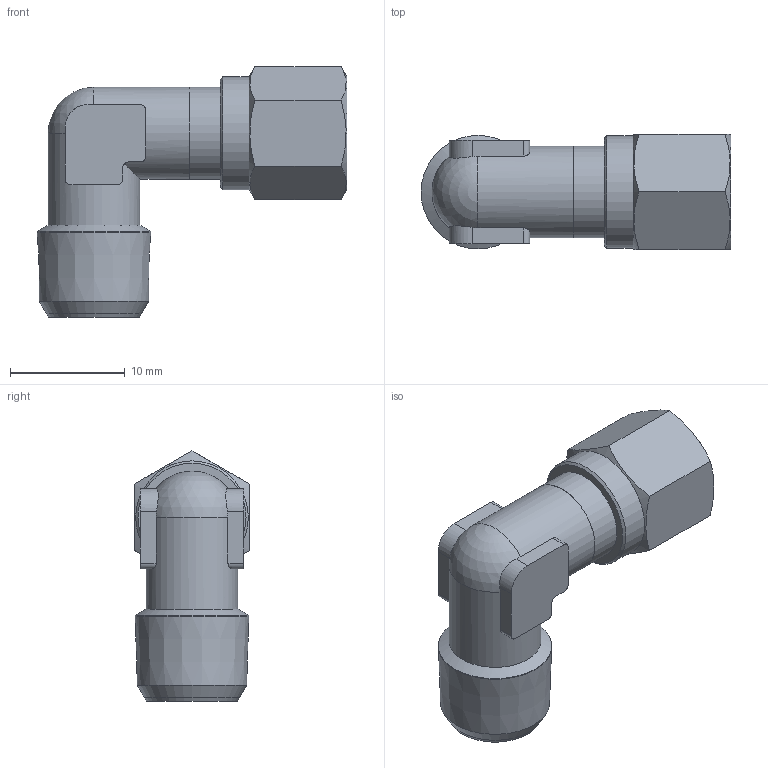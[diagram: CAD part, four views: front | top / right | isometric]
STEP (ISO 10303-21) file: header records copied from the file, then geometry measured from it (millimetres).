
FILE_DESCRIPTION(('Bauteilbeschreibung','HiCAD-Model','HiCAD-STEP-TRANSLATION','Bauteilbeschreibung'),'2;1');
FILE_NAME('B:/ABGLEICH/ZEICHNUNGEN/STEP FÜR INTERNET/STEP/205/92801_205_4_1-8.STP','2011-11-23T16:32:43+00:00',('Konstrukteur'),('Konstrukteur Firma GmbH'),' HiCAD neXt 2008, Step 3.1.1401.2J ','HiCAD neXt 2008','confidential');
FILE_SCHEMA(('AUTOMOTIVE_DESIGN { 1 2 10303 214 0 1 1 1 }'));
Length unit declared in the file: millimetre
Products named in the file (9): A2801_205_4_1_8; A7401; A6801_210_4_M8X1; A68010210040M8X1; DIN 13_M8X1; A2801; A28010; R 1_8; DIN0130M8X1
Assembly tree (8 placements, depth 3):
  A2801_205_4_1_8
    A7401
    A6801_210_4_M8X1
    A68010210040M8X1
      DIN 13_M8X1
    A2801
    A28010
      R 1_8
      DIN0130M8X1
Bounding box: 26.94 x 10 x 21.77 mm (x, y, z)
Volume: 1905.3 mm3; surface area: 3337 mm2
Topology: 6 solids, 6 shells, 90 faces, 220 edges, 141 vertices
Faces by surface type: plane 33, cylinder 28, cone 27, torus 1, sphere 1
Full cylindrical faces by diameter (mm): 3 x1, 4 x2, 4.5 x1, 6 x1, 6.773 x3, 8 x5, 9.8 x1, 9.884 x1
Entity records: 5519 total; most frequent: CARTESIAN_POINT 2769, DIRECTION 412, ORIENTED_EDGE 310, AXIS2_PLACEMENT_3D 181, EDGE_CURVE 155, COLOUR_RGB 144, EDGE_LOOP 144, PRESENTATION_STYLE_ASSIGNMENT 144
